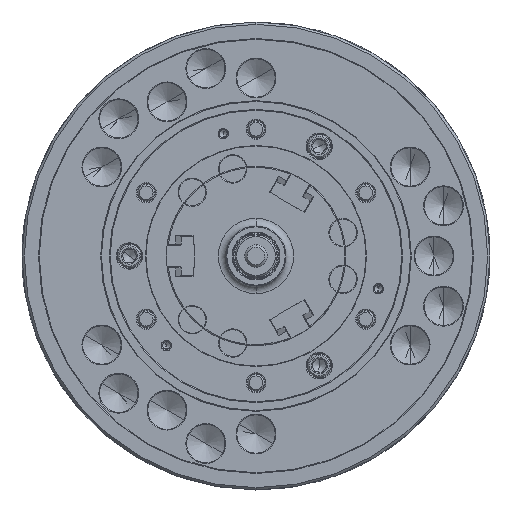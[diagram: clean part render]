
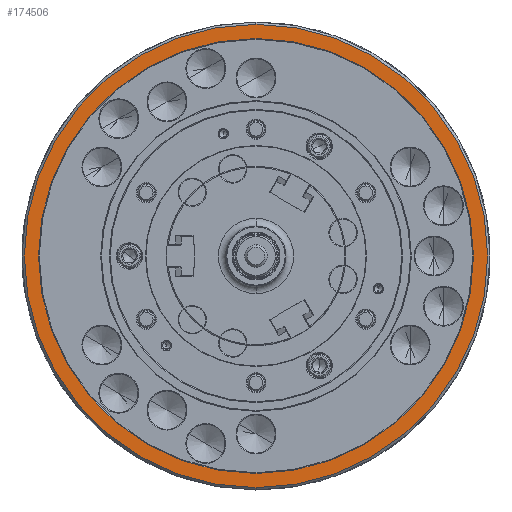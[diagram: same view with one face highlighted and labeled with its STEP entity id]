
A CAD part, left-side view. The second image highlights one B-rep face of the part: STEP entity #174506.
In plain terms, the highlighted planar face has unit normal (-1, 0, 0).
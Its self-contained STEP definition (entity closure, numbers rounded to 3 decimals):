
#1595 = ORIENTED_EDGE ( 'NONE', *, *, #58810, .F. ) ;
#3740 = EDGE_CURVE ( 'NONE', #142005, #143590, #147103, .T. ) ;
#12701 = CARTESIAN_POINT ( 'NONE',  ( -125., 302., 0. ) ) ;
#17747 = DIRECTION ( 'NONE',  ( -1., 0., 0. ) ) ;
#19503 = CARTESIAN_POINT ( 'NONE',  ( -125., 0., 302. ) ) ;
#34916 = CARTESIAN_POINT ( 'NONE',  ( -125., 0., -302. ) ) ;
#38657 = CIRCLE ( 'NONE', #165787, 283.5 ) ;
#39993 = CARTESIAN_POINT ( 'NONE',  ( -125., 0., 0. ) ) ;
#42097 = ORIENTED_EDGE ( 'NONE', *, *, #3740, .T. ) ;
#49099 = DIRECTION ( 'NONE',  ( 1., 0., 0. ) ) ;
#49319 = AXIS2_PLACEMENT_3D ( 'NONE', #12701, #49099, #118478 ) ;
#52510 = CIRCLE ( 'NONE', #81599, 283.5 ) ;
#58810 = EDGE_CURVE ( 'NONE', #133493, #122696, #38657, .T. ) ;
#60421 = DIRECTION ( 'NONE',  ( 0., 0., 1. ) ) ;
#66171 = FACE_OUTER_BOUND ( 'NONE', #185080, .T. ) ;
#69592 = CIRCLE ( 'NONE', #182095, 302. ) ;
#81599 = AXIS2_PLACEMENT_3D ( 'NONE', #129793, #199201, #60421 ) ;
#84872 = DIRECTION ( 'NONE',  ( 0., 0., 1. ) ) ;
#86498 = CARTESIAN_POINT ( 'NONE',  ( -125., 0., -283.5 ) ) ;
#99816 = EDGE_LOOP ( 'NONE', ( #110651, #1595 ) ) ;
#110651 = ORIENTED_EDGE ( 'NONE', *, *, #146706, .F. ) ;
#118478 = DIRECTION ( 'NONE',  ( 0., 0., -1. ) ) ;
#122696 = VERTEX_POINT ( 'NONE', #153452 ) ;
#126897 = DIRECTION ( 'NONE',  ( -1., 0., 0. ) ) ;
#129436 = ORIENTED_EDGE ( 'NONE', *, *, #140602, .T. ) ;
#129793 = CARTESIAN_POINT ( 'NONE',  ( -125., 0., 0. ) ) ;
#133493 = VERTEX_POINT ( 'NONE', #86498 ) ;
#140602 = EDGE_CURVE ( 'NONE', #143590, #142005, #69592, .T. ) ;
#142005 = VERTEX_POINT ( 'NONE', #19503 ) ;
#142375 = DIRECTION ( 'NONE',  ( 0., 0., 1. ) ) ;
#143590 = VERTEX_POINT ( 'NONE', #34916 ) ;
#145101 = CARTESIAN_POINT ( 'NONE',  ( -125., 0., 0. ) ) ;
#146706 = EDGE_CURVE ( 'NONE', #122696, #133493, #52510, .T. ) ;
#147103 = CIRCLE ( 'NONE', #212552, 302. ) ;
#151500 = FACE_BOUND ( 'NONE', #99816, .T. ) ;
#153452 = CARTESIAN_POINT ( 'NONE',  ( -125., 0., 283.5 ) ) ;
#154842 = PLANE ( 'NONE',  #49319 ) ;
#157624 = CARTESIAN_POINT ( 'NONE',  ( -125., 0., 0. ) ) ;
#165787 = AXIS2_PLACEMENT_3D ( 'NONE', #39993, #211759, #142375 ) ;
#174506 = ADVANCED_FACE ( 'NONE', ( #151500, #66171 ), #154842, .F. ) ;
#182095 = AXIS2_PLACEMENT_3D ( 'NONE', #145101, #126897, #196274 ) ;
#185080 = EDGE_LOOP ( 'NONE', ( #129436, #42097 ) ) ;
#196274 = DIRECTION ( 'NONE',  ( 0., 0., 1. ) ) ;
#199201 = DIRECTION ( 'NONE',  ( -1., 0., 0. ) ) ;
#211759 = DIRECTION ( 'NONE',  ( -1., 0., 0. ) ) ;
#212552 = AXIS2_PLACEMENT_3D ( 'NONE', #157624, #17747, #84872 ) ;
